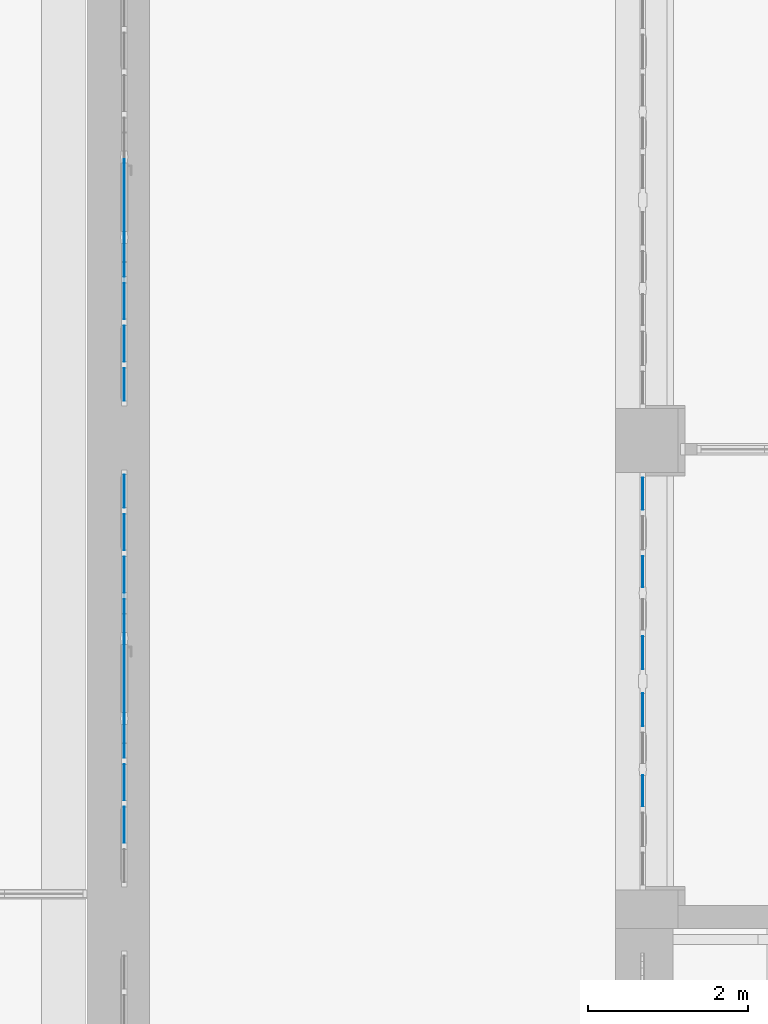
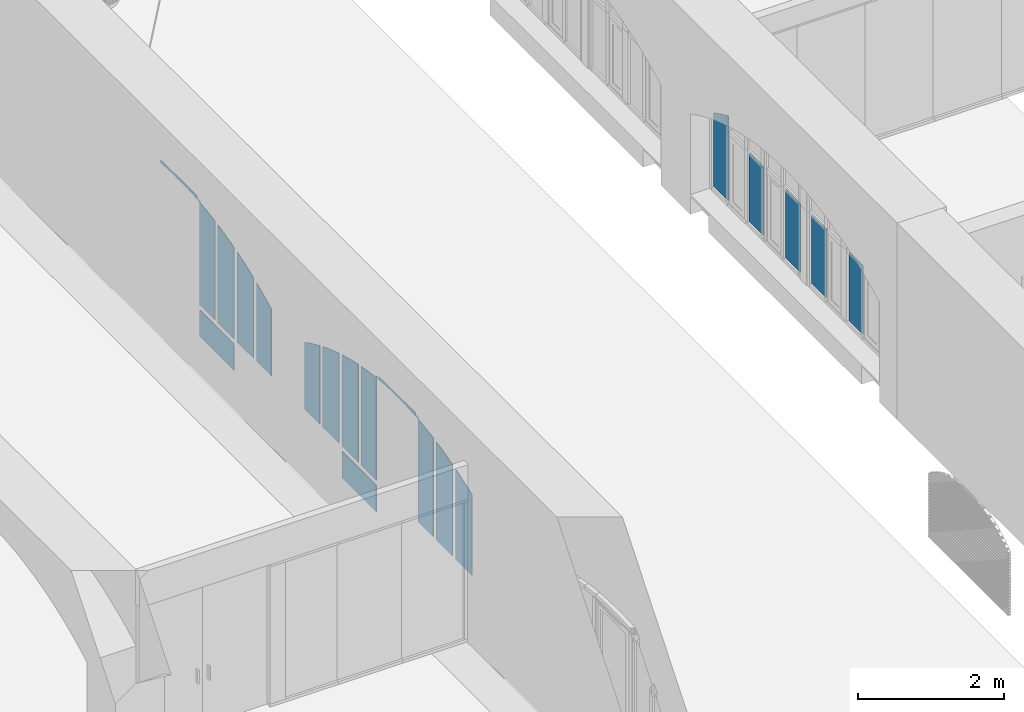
# One storey, part 63 of 88: 20 plates, 3 elements without a shape of their own.
"""IFC2X3 building model written with IfcOpenShell, lengths in millimetres."""

from ifc_helpers import new_model, entity, si_unit, converted_unit, derived_unit, direction, frame, frame_2d, origin, origin_2d_with_axis, place, context, subcontext, project, spatial, polyline, circle_curve, parameter, trimmed, segment, composite_curve, rectangle, outline, extrude, face_set, surface_model, source, transform, mapped, material, type_object, type_shapes, element, aggregate, save


model = new_model("IFC2X3")

# Units and contexts
model_context = context("Model", 3, precision=0.01, world=origin(), true_north=direction((6.123031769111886e-17, 1.0)))
body_context = subcontext(model_context, "Body", "Model", "MODEL_VIEW")
ifc_project = project(units=[si_unit("LENGTHUNIT", "METRE", prefix="MILLI"), si_unit("AREAUNIT", "SQUARE_METRE"), si_unit("VOLUMEUNIT", "CUBIC_METRE"), converted_unit("PLANEANGLEUNIT", "DEGREE", entity("IfcPlaneAngleMeasure", 0.017453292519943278), si_unit("PLANEANGLEUNIT", "RADIAN"), dimensions=[0, 0, 0, 0, 0, 0, 0]), si_unit("MASSUNIT", "GRAM", prefix="KILO"), derived_unit("MASSDENSITYUNIT", [(si_unit("MASSUNIT", "GRAM", prefix="KILO"), 1), (si_unit("LENGTHUNIT", "METRE"), -3)]), derived_unit("IONCONCENTRATIONUNIT", [(si_unit("MASSUNIT", "GRAM", prefix="KILO"), 1), (si_unit("LENGTHUNIT", "METRE"), -3)]), derived_unit("MOMENTOFINERTIAUNIT", [(si_unit("LENGTHUNIT", "METRE"), 4)]), si_unit("TIMEUNIT", "SECOND"), si_unit("FREQUENCYUNIT", "HERTZ"), si_unit("THERMODYNAMICTEMPERATUREUNIT", "DEGREE_CELSIUS"), derived_unit("THERMALTRANSMITTANCEUNIT", [(si_unit("MASSUNIT", "GRAM", prefix="KILO"), 1), (si_unit("THERMODYNAMICTEMPERATUREUNIT", "KELVIN"), -1), (si_unit("TIMEUNIT", "SECOND"), -3)]), derived_unit("THERMALCONDUCTANCEUNIT", [(si_unit("MASSUNIT", "GRAM", prefix="KILO"), 1), (si_unit("THERMODYNAMICTEMPERATUREUNIT", "KELVIN"), -1), (si_unit("TIMEUNIT", "SECOND"), -3), (si_unit("LENGTHUNIT", "METRE"), 1)]), derived_unit("VOLUMETRICFLOWRATEUNIT", [(si_unit("LENGTHUNIT", "METRE", prefix="DECI"), 3), (si_unit("TIMEUNIT", "SECOND"), -1)]), derived_unit("MASSFLOWRATEUNIT", [(si_unit("MASSUNIT", "GRAM", prefix="KILO"), 1), (si_unit("TIMEUNIT", "SECOND"), -1)]), derived_unit("ROTATIONALFREQUENCYUNIT", [(si_unit("TIMEUNIT", "SECOND"), -1)]), si_unit("ELECTRICCURRENTUNIT", "AMPERE"), si_unit("ELECTRICVOLTAGEUNIT", "VOLT"), si_unit("POWERUNIT", "WATT"), si_unit("FORCEUNIT", "NEWTON", prefix="KILO"), si_unit("ILLUMINANCEUNIT", "LUX"), si_unit("LUMINOUSFLUXUNIT", "LUMEN"), si_unit("LUMINOUSINTENSITYUNIT", "CANDELA"), si_unit("ENERGYUNIT", "JOULE"), derived_unit("USERDEFINED", [(si_unit("MASSUNIT", "GRAM", prefix="KILO"), -1), (si_unit("LENGTHUNIT", "METRE"), -2), (si_unit("TIMEUNIT", "SECOND"), 3), (si_unit("LUMINOUSFLUXUNIT", "LUMEN"), 1)]), derived_unit("USERDEFINED", [(si_unit("MASSUNIT", "GRAM", prefix="KILO"), 1), (si_unit("TIMEUNIT", "SECOND"), -3), (si_unit("LENGTHUNIT", "METRE"), 3), (si_unit("ELECTRICCURRENTUNIT", "AMPERE"), -2)]), derived_unit("SOUNDPOWERUNIT", [(si_unit("MASSUNIT", "GRAM", prefix="KILO"), 1), (si_unit("TIMEUNIT", "SECOND"), -3), (si_unit("LENGTHUNIT", "METRE"), 2)]), derived_unit("SOUNDPRESSUREUNIT", [(si_unit("MASSUNIT", "GRAM", prefix="KILO"), 1), (si_unit("LENGTHUNIT", "METRE"), -1), (si_unit("TIMEUNIT", "SECOND"), -2)]), derived_unit("LINEARVELOCITYUNIT", [(si_unit("LENGTHUNIT", "METRE"), 1), (si_unit("TIMEUNIT", "SECOND"), -1)]), si_unit("PRESSUREUNIT", "PASCAL"), derived_unit("USERDEFINED", [(si_unit("MASSUNIT", "GRAM", prefix="KILO"), 1), (si_unit("LENGTHUNIT", "METRE"), -2), (si_unit("TIMEUNIT", "SECOND"), -2)]), derived_unit("LINEARFORCEUNIT", [(si_unit("MASSUNIT", "GRAM", prefix="KILO"), 1), (si_unit("TIMEUNIT", "SECOND"), -2)]), derived_unit("PLANARFORCEUNIT", [(si_unit("MASSUNIT", "GRAM", prefix="KILO"), 1), (si_unit("LENGTHUNIT", "METRE"), -1), (si_unit("TIMEUNIT", "SECOND"), -2)]), derived_unit("SPECIFICHEATCAPACITYUNIT", [(si_unit("THERMODYNAMICTEMPERATUREUNIT", "KELVIN"), -1), (si_unit("LENGTHUNIT", "METRE"), 2), (si_unit("TIMEUNIT", "SECOND"), -2)]), derived_unit("HEATFLUXDENSITYUNIT", [(si_unit("MASSUNIT", "GRAM", prefix="KILO"), 1), (si_unit("TIMEUNIT", "SECOND"), -3)]), derived_unit("HEATINGVALUEUNIT", [(si_unit("LENGTHUNIT", "METRE"), 2), (si_unit("TIMEUNIT", "SECOND"), -2)]), derived_unit("VAPORPERMEABILITYUNIT", [(si_unit("LENGTHUNIT", "METRE"), -1), (si_unit("TIMEUNIT", "SECOND"), 1)]), derived_unit("DYNAMICVISCOSITYUNIT", [(si_unit("MASSUNIT", "GRAM", prefix="KILO"), 1), (si_unit("TIMEUNIT", "SECOND"), -1), (si_unit("LENGTHUNIT", "METRE"), -1)]), derived_unit("THERMALEXPANSIONCOEFFICIENTUNIT", [(si_unit("THERMODYNAMICTEMPERATUREUNIT", "KELVIN"), -1)]), derived_unit("MODULUSOFELASTICITYUNIT", [(si_unit("MASSUNIT", "GRAM", prefix="KILO"), 1), (si_unit("LENGTHUNIT", "METRE"), -1), (si_unit("TIMEUNIT", "SECOND"), -2)]), derived_unit("ISOTHERMALMOISTURECAPACITYUNIT", [(si_unit("MASSUNIT", "GRAM", prefix="KILO"), -1), (si_unit("LENGTHUNIT", "METRE"), 3)]), derived_unit("MOISTUREDIFFUSIVITYUNIT", [(si_unit("TIMEUNIT", "SECOND"), -1), (si_unit("LENGTHUNIT", "METRE"), 2)]), derived_unit("MASSPERLENGTHUNIT", [(si_unit("MASSUNIT", "GRAM", prefix="KILO"), 1), (si_unit("LENGTHUNIT", "METRE"), -1)]), derived_unit("THERMALRESISTANCEUNIT", [(si_unit("MASSUNIT", "GRAM", prefix="KILO"), -1), (si_unit("TIMEUNIT", "SECOND"), 3), (si_unit("THERMODYNAMICTEMPERATUREUNIT", "KELVIN"), 1)]), derived_unit("ACCELERATIONUNIT", [(si_unit("LENGTHUNIT", "METRE"), 1), (si_unit("TIMEUNIT", "SECOND"), -2)]), derived_unit("ANGULARVELOCITYUNIT", [(si_unit("TIMEUNIT", "SECOND"), -1), (si_unit("PLANEANGLEUNIT", "RADIAN"), 1)]), derived_unit("LINEARSTIFFNESSUNIT", [(si_unit("MASSUNIT", "GRAM", prefix="KILO"), 1), (si_unit("TIMEUNIT", "SECOND"), -2)]), derived_unit("WARPINGCONSTANTUNIT", [(si_unit("LENGTHUNIT", "METRE"), 6)]), derived_unit("LINEARMOMENTUNIT", [(si_unit("MASSUNIT", "GRAM", prefix="KILO"), 1), (si_unit("LENGTHUNIT", "METRE"), 1), (si_unit("TIMEUNIT", "SECOND"), -2)]), derived_unit("TORQUEUNIT", [(si_unit("MASSUNIT", "GRAM", prefix="KILO"), 1), (si_unit("LENGTHUNIT", "METRE"), 2), (si_unit("TIMEUNIT", "SECOND"), -2)])], contexts=[model_context])

# Site, building, storey
site_placement = place(None, origin())
site = spatial("IfcSite", under=ifc_project, at=site_placement, Name="Default", CompositionType="ELEMENT")
building_placement = place(site_placement, origin())
building = spatial("IfcBuilding", under=site, at=building_placement, Name="Eesti Rahvusraamatukogu hoone renoveerimise projekteerimistööd", CompositionType="ELEMENT")
storey_placement = place(building_placement, origin())
storey = spatial("IfcBuildingStorey", under=building, at=storey_placement, Name="1. korrus", CompositionType="ELEMENT", Elevation=0.0)

# Curtain wall, plates
curtain_wall_type_1 = type_object("IfcCurtainWallType", Name="Curtain Wall:Ak-02", PredefinedType="NOTDEFINED")
curtain_wall_1_placement = place(storey_placement, origin())
curtain_wall_1 = element("IfcCurtainWall", 1, at=curtain_wall_1_placement, inside=storey, type_object=curtain_wall_type_1, Name="Curtain Wall:Ak-02", ObjectType="Curtain Wall:Ak-02")
ifc_material_1 = material(Name="EST. Klaas. 3x. Default")
plate_type_1 = type_object("IfcPlateType", Name="System Panel:Peegelaknad 6-16-4-16-4, paneel", PredefinedType="CURTAIN_PANEL", material=ifc_material_1)
shared_shape_1 = source(origin(), body_context, "Body", "SweptSolid", [
    extrude(outline(composite_curve([segment(polyline([(-838.8855000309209, -200.0), (351.11449996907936, -200.0)]), True, "CONTINUOUS"), segment(polyline([(351.11449996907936, -200.0), (392.3931648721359, -200.0)]), True, "CONTINUOUS"), segment(trimmed(circle_curve(frame_2d((-4419.029401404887, 2340.0), x_axis=(0.9248280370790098, -0.38038546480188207)), 5440.715680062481), [parameter(354.5275221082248)], [parameter(359.19566238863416)], True, "PARAMETER"), True, "CONTINUOUS"), segment(polyline([(583.1488352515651, 200.0), (351.11449996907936, 200.0)]), True, "CONTINUOUS"), segment(polyline([(351.11449996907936, 200.0), (-838.8855000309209, 200.0)]), True, "CONTINUOUS"), segment(polyline([(-838.8855000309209, 200.0), (-838.8855000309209, -200.0)]), True, "CONTINUOUS")], self_intersect=False)), frame((0.0, -5.0, 838.8855000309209), z_axis=(0.0, 1.0, 0.0), x_axis=(0.0, 0.0, 1.0)), (0.0, 0.0, 1.0), 10.0),
])
type_shapes(plate_type_1, [shared_shape_1])
plate_1_placement = place(curtain_wall_1_placement, frame((-36440.0, 35730.0, 2040.0), z_axis=(0.0, 0.0, 1.0), x_axis=(0.0, -1.0, 0.0)))
plate_1 = element("IfcPlate", 2, at=plate_1_placement, type_object=plate_type_1, material=ifc_material_1, Name="System Panel:Peegelaknad 6-16-4-16-4, paneel", ObjectType="System Panel:Peegelaknad 6-16-4-16-4, paneel", context=body_context, shape_type="MappedRepresentation", body=[
    mapped(shared_shape_1, transform((0.0, 0.0, 0.0), scale=1.0)),
])
plate_type_2 = type_object("IfcPlateType", Name="System Panel:Peegelaknad 6-16-4-16-4, paneel", PredefinedType="CURTAIN_PANEL", material=ifc_material_1)
shared_shape_2 = source(origin(), body_context, "Body", "SweptSolid", [
    extrude(rectangle(XDim=10.0, YDim=384.9999999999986, at=origin_2d_with_axis()), frame((0.0, 0.0, 0.0), z_axis=(0.0, 0.0, 1.0), x_axis=(0.0, 1.0, 0.0)), (0.0, 0.0, 1.0), 1150.0000000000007),
])
type_shapes(plate_type_2, [shared_shape_2])
plate_2_placement = place(curtain_wall_1_placement, frame((-36440.0, 34757.49999999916, 2040.0), z_axis=(0.0, 0.0, 1.0), x_axis=(0.0, -1.0, 0.0)))
plate_2 = element("IfcPlate", 3, at=plate_2_placement, type_object=plate_type_2, material=ifc_material_1, Name="System Panel:Peegelaknad 6-16-4-16-4, paneel", ObjectType="System Panel:Peegelaknad 6-16-4-16-4, paneel", context=body_context, shape_type="MappedRepresentation", body=[
    mapped(shared_shape_2, transform((0.0, 0.0, 0.0), scale=1.0)),
])
plate_3_placement = place(curtain_wall_1_placement, frame((-36440.0, 32022.499999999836, 2040.0), z_axis=(0.0, 0.0, 1.0), x_axis=(0.0, -1.0, 0.0)))
plate_3 = element("IfcPlate", 4, at=plate_3_placement, type_object=plate_type_2, material=ifc_material_1, Name="System Panel:Peegelaknad 6-16-4-16-4, paneel", ObjectType="System Panel:Peegelaknad 6-16-4-16-4, paneel", context=body_context, shape_type="MappedRepresentation", body=[
    mapped(shared_shape_2, transform((0.0, 0.0, 0.0), scale=1.0)),
])
plate_type_3 = type_object("IfcPlateType", Name="System Panel:Peegelaknad 6-16-4-16-4, paneel", PredefinedType="CURTAIN_PANEL", material=ifc_material_1)
shared_shape_3 = source(origin(), body_context, "Body", "SweptSolid", [
    extrude(rectangle(XDim=10.0, YDim=409.9999999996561, at=origin_2d_with_axis()), frame((0.0, 0.0, 0.0), z_axis=(0.0, 0.0, 1.0), x_axis=(0.0, 1.0, 0.0)), (0.0, 0.0, 1.0), 1150.0000000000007),
])
type_shapes(plate_type_3, [shared_shape_3])
plate_4_placement = place(curtain_wall_1_placement, frame((-36440.0, 33745.0, 2040.0), z_axis=(0.0, 0.0, 1.0), x_axis=(0.0, -1.0, 0.0)))
plate_4 = element("IfcPlate", 5, at=plate_4_placement, type_object=plate_type_3, material=ifc_material_1, Name="System Panel:Peegelaknad 6-16-4-16-4, paneel", ObjectType="System Panel:Peegelaknad 6-16-4-16-4, paneel", context=body_context, shape_type="MappedRepresentation", body=[
    mapped(shared_shape_3, transform((0.0, 0.0, 0.0), scale=1.0)),
])
plate_5_placement = place(curtain_wall_1_placement, frame((-36440.0, 33035.0, 2040.0), z_axis=(0.0, 0.0, 1.0), x_axis=(0.0, -1.0, 0.0)))
plate_5 = element("IfcPlate", 6, at=plate_5_placement, type_object=plate_type_3, material=ifc_material_1, Name="System Panel:Peegelaknad 6-16-4-16-4, paneel", ObjectType="System Panel:Peegelaknad 6-16-4-16-4, paneel", context=body_context, shape_type="MappedRepresentation", body=[
    mapped(shared_shape_3, transform((0.0, 0.0, 0.0), scale=1.0)),
])
aggregate(curtain_wall_1, [plate_1, plate_2, plate_4, plate_5, plate_3])

# Curtain wall, plate
curtain_wall_type_2 = type_object("IfcCurtainWallType", Name="Curtain Wall:Ak-05", PredefinedType="NOTDEFINED")
curtain_wall_2_placement = place(storey_placement, origin())
curtain_wall_2 = element("IfcCurtainWall", 7, at=curtain_wall_2_placement, inside=storey, type_object=curtain_wall_type_2, Name="Curtain Wall:Ak-05", ObjectType="Curtain Wall:Ak-05")
plate_type_4 = type_object("IfcPlateType", Name="System Panel:Peegelaknad 6-16-4-16-4, paneel", PredefinedType="CURTAIN_PANEL", material=ifc_material_1)
shared_shape_4 = source(origin(), body_context, "Body", "SweptSolid", [
    extrude(rectangle(XDim=450.00000000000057, YDim=944.9999999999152, at=frame_2d((0.0, -5.833333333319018), x_axis=(1.0, 0.0))), frame((5.833333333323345, -5.0, 225.0), z_axis=(0.0, 1.0, 0.0), x_axis=(0.0, 0.0, 1.0)), (0.0, 0.0, 1.0), 10.0),
])
type_shapes(plate_type_4, [shared_shape_4])
plate_6_placement = place(curtain_wall_2_placement, frame((-42905.0, 34472.499999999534, 10.0), z_axis=(0.0, 0.0, 1.0), x_axis=(0.0, -1.0, 0.0)))
plate_6 = element("IfcPlate", 8, at=plate_6_placement, type_object=plate_type_4, material=ifc_material_1, Name="System Panel:Peegelaknad 6-16-4-16-4, paneel", ObjectType="System Panel:Peegelaknad 6-16-4-16-4, paneel", context=body_context, shape_type="MappedRepresentation", body=[
    mapped(shared_shape_4, transform((0.0, 0.0, 0.0), scale=1.0)),
])

curtain_wall_3_placement = place(storey_placement, origin())
curtain_wall_3 = element("IfcCurtainWall", 9, at=curtain_wall_3_placement, inside=storey, type_object=curtain_wall_type_2, Name="Curtain Wall:Ak-05", ObjectType="Curtain Wall:Ak-05")
plate_type_5 = type_object("IfcPlateType", Name="System Panel:Peegelaknad 6-16-4-16-4, paneel", PredefinedType="CURTAIN_PANEL", material=ifc_material_1)
shared_shape_5 = source(origin(), body_context, "Body", "SweptSolid", [
    extrude(rectangle(XDim=450.00000000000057, YDim=945.0000000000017, at=frame_2d((0.0, 5.833333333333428), x_axis=(1.0, 0.0))), frame((-5.8333333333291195, -5.0, 225.0), z_axis=(0.0, 1.0, 0.0), x_axis=(0.0, 0.0, 1.0)), (0.0, 0.0, 1.0), 10.0),
])
type_shapes(plate_type_5, [shared_shape_5])
plate_7_placement = place(curtain_wall_3_placement, frame((-42905.0, 38377.49999999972, 10.0), z_axis=(0.0, 0.0, 1.0), x_axis=(0.0, -1.0, 0.0)))
plate_7 = element("IfcPlate", 10, at=plate_7_placement, type_object=plate_type_5, material=ifc_material_1, Name="System Panel:Peegelaknad 6-16-4-16-4, paneel", ObjectType="System Panel:Peegelaknad 6-16-4-16-4, paneel", context=body_context, shape_type="MappedRepresentation", body=[
    mapped(shared_shape_5, transform((0.0, 0.0, 0.0), scale=1.0)),
])

# Plate
plate_type_6 = type_object("IfcPlateType", Name="System Panel:Peegelaknad 6-16-4-16-4, paneel", PredefinedType="CURTAIN_PANEL", material=ifc_material_1)
shared_shape_6 = source(origin(), body_context, "Body", "SweptSolid", [
    extrude(outline(composite_curve([segment(polyline([(-610.3301409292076, -205.0), (513.3133718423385, -205.0)]), True, "CONTINUOUS"), segment(trimmed(circle_curve(frame_2d((-4323.610707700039, 2335.0), x_axis=(0.9256428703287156, -0.37839830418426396)), 5463.280566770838), [parameter(354.5293230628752)], [parameter(359.2877436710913)], True, "PARAMETER"), True, "CONTINUOUS"), segment(polyline([(707.3469100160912, 205.0), (-610.3301409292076, 205.0)]), True, "CONTINUOUS"), segment(polyline([(-610.3301409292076, 205.0), (-610.3301409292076, -205.0)]), True, "CONTINUOUS")], self_intersect=False)), frame((0.0, -5.0, 610.3301409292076), z_axis=(0.0, 1.0, 0.0), x_axis=(0.0, 0.0, 1.0)), (0.0, 0.0, 1.0), 10.0),
])
type_shapes(plate_type_6, [shared_shape_6])
plate_8_placement = place(curtain_wall_2_placement, frame((-42905.0, 35760.0, 540.0), z_axis=(0.0, 0.0, 1.0), x_axis=(0.0, -1.0, 0.0)))
plate_8 = element("IfcPlate", 11, at=plate_8_placement, type_object=plate_type_6, material=ifc_material_1, Name="System Panel:Peegelaknad 6-16-4-16-4, paneel", ObjectType="System Panel:Peegelaknad 6-16-4-16-4, paneel", context=body_context, shape_type="MappedRepresentation", body=[
    mapped(shared_shape_6, transform((0.0, 0.0, 0.0), scale=1.0)),
])

plate_type_7 = type_object("IfcPlateType", Name="System Panel:Peegelaknad 6-16-4-16-4, paneel", PredefinedType="CURTAIN_PANEL", material=ifc_material_1)
shared_shape_7 = source(origin(), body_context, "Body", "SweptSolid", [
    extrude(outline(composite_curve([segment(polyline([(-715.3148161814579, -225.0), (635.487411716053, -225.0)]), True, "CONTINUOUS"), segment(trimmed(circle_curve(frame_2d((-4428.595382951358, 1825.0), x_axis=(0.9592847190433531, -0.2824408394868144)), 5463.280566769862), [parameter(354.3672571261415)], [parameter(359.3764184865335)], True, "PARAMETER"), True, "CONTINUOUS"), segment(polyline([(795.1422206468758, 225.0), (-715.3148161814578, 225.0)]), True, "CONTINUOUS"), segment(polyline([(-715.3148161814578, 225.0), (-715.3148161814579, -225.0)]), True, "CONTINUOUS")], self_intersect=False)), frame((0.0, -5.0, 715.3148161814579), z_axis=(0.0, 1.0, 0.0), x_axis=(0.0, 0.0, 1.0)), (0.0, 0.0, 1.0), 10.0),
])
type_shapes(plate_type_7, [shared_shape_7])
plate_9_placement = place(curtain_wall_2_placement, frame((-42905.0, 35250.0, 540.0), z_axis=(0.0, 0.0, 1.0), x_axis=(0.0, -1.0, 0.0)))
plate_9 = element("IfcPlate", 12, at=plate_9_placement, type_object=plate_type_7, material=ifc_material_1, Name="System Panel:Peegelaknad 6-16-4-16-4, paneel", ObjectType="System Panel:Peegelaknad 6-16-4-16-4, paneel", context=body_context, shape_type="MappedRepresentation", body=[
    mapped(shared_shape_7, transform((0.0, 0.0, 0.0), scale=1.0)),
])

plate_type_8 = type_object("IfcPlateType", Name="System Panel:Peegelaknad 6-16-4-16-4, paneel", PredefinedType="CURTAIN_PANEL", material=ifc_material_1)
shared_shape_8 = source(origin(), body_context, "Body", "SweptSolid", [
    extrude(outline(composite_curve([segment(polyline([(-794.6219170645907, -225.0), (739.6716748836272, -225.0)]), True, "CONTINUOUS"), segment(trimmed(circle_curve(frame_2d((-4507.902483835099, 1295.0), x_axis=(0.9824581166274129, -0.18648337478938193)), 5463.2805667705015), [parameter(354.5935648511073)], [parameter(359.45306970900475)], True, "PARAMETER"), True, "CONTINUOUS"), segment(polyline([(849.5721592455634, 225.0), (-794.6219170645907, 225.0)]), True, "CONTINUOUS"), segment(polyline([(-794.6219170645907, 225.0), (-794.6219170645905, -225.0)]), True, "CONTINUOUS")], self_intersect=False)), frame((0.0, -5.0, 794.6219170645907), z_axis=(0.0, 1.0, 0.0), x_axis=(0.0, 0.0, 1.0)), (0.0, 0.0, 1.0), 10.0),
])
type_shapes(plate_type_8, [shared_shape_8])
plate_10_placement = place(curtain_wall_2_placement, frame((-42905.0, 34720.0, 540.0), z_axis=(0.0, 0.0, 1.0), x_axis=(0.0, -1.0, 0.0)))
plate_10 = element("IfcPlate", 13, at=plate_10_placement, type_object=plate_type_8, material=ifc_material_1, Name="System Panel:Peegelaknad 6-16-4-16-4, paneel", ObjectType="System Panel:Peegelaknad 6-16-4-16-4, paneel", context=body_context, shape_type="MappedRepresentation", body=[
    mapped(shared_shape_8, transform((0.0, 0.0, 0.0), scale=1.0)),
])

plate_type_9 = type_object("IfcPlateType", Name="System Panel:Peegelaknad 6-16-4-16-4, paneel", PredefinedType="CURTAIN_PANEL", material=ifc_material_1)
shared_shape_9 = source(origin(), body_context, "Body", "SurfaceModel", [
    surface_model("IfcFaceBasedSurfaceModel", [(-245.0, -5.0, 0.0), (170.0, -5.0, 0.0), (170.0, -5.0, 1750.0), (245.0, -5.0, 1750.0), (245.0, -5.0, 1727.0718621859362), (93.20177957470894, -5.0, 1710.979164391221), (-58.08758672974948, -5.0, 1690.6517865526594), (-151.67863011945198, -5.0, 1675.9125069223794), (-245.0, -5.0, 1659.5524430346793), (-245.0, 5.0, 0.0), (-245.0, 5.0, 1659.5524430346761), (-151.67863011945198, 5.0, 1675.9125069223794), (-58.08758672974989, 5.0, 1690.6517865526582), (93.20177957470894, 5.0, 1710.979164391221), (245.0, 5.0, 1727.071862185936), (245.0, 5.0, 1750.0), (170.0, 5.0, 1750.0), (170.0, 5.0, 0.0)], [face_set([[[0, 1, 2, 3, 4, 5, 6, 7, 8]], [[9, 10, 11, 12, 13, 14, 15, 16, 17]], [[1, 0, 9, 17]], [[2, 1, 17, 16]], [[3, 15, 16, 2]], [[4, 14, 15, 3]], [[5, 4, 14, 13]], [[12, 6, 5, 13]], [[7, 6, 12, 11]], [[10, 8, 7, 11]], [[0, 8, 10, 9]]])]),
])
type_shapes(plate_type_9, [shared_shape_9])
plate_11_placement = place(curtain_wall_2_placement, frame((-42905.0, 34170.0, 540.0), z_axis=(0.0, 0.0, 1.0), x_axis=(0.0, -1.0, 0.0)))
plate_11 = element("IfcPlate", 14, at=plate_11_placement, type_object=plate_type_9, material=ifc_material_1, Name="System Panel:Peegelaknad 6-16-4-16-4, paneel", ObjectType="System Panel:Peegelaknad 6-16-4-16-4, paneel", context=body_context, shape_type="MappedRepresentation", body=[
    mapped(shared_shape_9, transform((0.0, 0.0, 0.0), scale=1.0)),
])

plate_type_10 = type_object("IfcPlateType", Name="System Panel:Peegelaknad 6-16-4-16-4, paneel", PredefinedType="CURTAIN_PANEL", material=ifc_material_1)
shared_shape_10 = source(origin(), body_context, "Body", "SurfaceModel", [
    surface_model("IfcFaceBasedSurfaceModel", [(-170.0, -5.0, 0.0), (245.0, -5.0, 0.0), (245.0, -5.0, 1659.5524430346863), (151.67863011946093, -5.0, 1675.9125069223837), (58.08758672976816, -5.0, 1690.6517865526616), (-93.2017795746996, -5.0, 1710.979164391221), (-245.0, -5.0, 1727.071862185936), (-245.0, -5.0, 1750.0), (-170.0, -5.0, 1750.0), (-170.0, 5.0, 0.0), (245.0, 5.0, 0.0), (245.0, 5.0, 1659.552443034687), (151.67863011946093, 5.0, 1675.9125069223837), (58.08758672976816, 5.0, 1690.6517865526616), (-93.2017795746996, 5.0, 1710.979164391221), (-245.0, 5.0, 1727.071862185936), (-245.0, 5.0, 1750.0), (-170.0, 5.0, 1750.0)], [face_set([[[0, 1, 2, 3, 4, 5, 6, 7, 8]], [[9, 10, 11, 12, 13, 14, 15, 16, 17]], [[1, 0, 9, 10]], [[2, 1, 10, 11]], [[3, 2, 11, 12]], [[13, 4, 3, 12]], [[4, 13, 14, 5]], [[15, 6, 5, 14]], [[7, 16, 15, 6]], [[8, 17, 16, 7]], [[0, 8, 17, 9]]])]),
])
type_shapes(plate_type_10, [shared_shape_10])
plate_12_placement = place(curtain_wall_3_placement, frame((-42905.0, 38680.0, 540.0), z_axis=(0.0, 0.0, 1.0), x_axis=(0.0, -1.0, 0.0)))
plate_12 = element("IfcPlate", 15, at=plate_12_placement, type_object=plate_type_10, material=ifc_material_1, Name="System Panel:Peegelaknad 6-16-4-16-4, paneel", ObjectType="System Panel:Peegelaknad 6-16-4-16-4, paneel", context=body_context, shape_type="MappedRepresentation", body=[
    mapped(shared_shape_10, transform((0.0, 0.0, 0.0), scale=1.0)),
])

plate_13_placement = place(curtain_wall_2_placement, frame((-42905.0, 32680.0, 540.0), z_axis=(0.0, 0.0, 1.0), x_axis=(0.0, -1.0, 0.0)))
plate_13 = element("IfcPlate", 16, at=plate_13_placement, type_object=plate_type_10, material=ifc_material_1, Name="System Panel:Peegelaknad 6-16-4-16-4, paneel", ObjectType="System Panel:Peegelaknad 6-16-4-16-4, paneel", context=body_context, shape_type="MappedRepresentation", body=[
    mapped(shared_shape_10, transform((0.0, 0.0, 0.0), scale=1.0)),
])

plate_type_11 = type_object("IfcPlateType", Name="System Panel:Peegelaknad 6-16-4-16-4, paneel", PredefinedType="CURTAIN_PANEL", material=ifc_material_1)
shared_shape_11 = source(origin(), body_context, "Body", "SweptSolid", [
    extrude(outline(composite_curve([segment(polyline([(-794.621917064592, 225.0), (-794.621917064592, -225.0)]), True, "CONTINUOUS"), segment(polyline([(-794.621917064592, -225.0), (739.6716748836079, -225.0)]), True, "CONTINUOUS"), segment(trimmed(circle_curve(frame_2d((-4507.902483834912, 1295.0), x_axis=(0.9592847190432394, -0.2824408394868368)), 5463.280566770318), [parameter(0.25187197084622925)], [parameter(5.111376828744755)], True, "PARAMETER"), True, "CONTINUOUS"), segment(polyline([(849.5721592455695, 225.0), (-794.621917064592, 225.0)]), True, "CONTINUOUS")], self_intersect=False)), frame((0.0, -5.0, 794.621917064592), z_axis=(0.0, -1.0, 0.0), x_axis=(0.0, 0.0, 1.0)), (0.0, 0.0, -1.0), 10.0),
])
type_shapes(plate_type_11, [shared_shape_11])
plate_14_placement = place(curtain_wall_3_placement, frame((-42905.0, 38130.0, 540.0), z_axis=(0.0, 0.0, 1.0), x_axis=(0.0, -1.0, 0.0)))
plate_14 = element("IfcPlate", 17, at=plate_14_placement, type_object=plate_type_11, material=ifc_material_1, Name="System Panel:Peegelaknad 6-16-4-16-4, paneel", ObjectType="System Panel:Peegelaknad 6-16-4-16-4, paneel", context=body_context, shape_type="MappedRepresentation", body=[
    mapped(shared_shape_11, transform((0.0, 0.0, 0.0), scale=1.0)),
])

plate_15_placement = place(curtain_wall_2_placement, frame((-42905.0, 32130.0, 540.0), z_axis=(0.0, 0.0, 1.0), x_axis=(0.0, -1.0, 0.0)))
plate_15 = element("IfcPlate", 18, at=plate_15_placement, type_object=plate_type_11, material=ifc_material_1, Name="System Panel:Peegelaknad 6-16-4-16-4, paneel", ObjectType="System Panel:Peegelaknad 6-16-4-16-4, paneel", context=body_context, shape_type="MappedRepresentation", body=[
    mapped(shared_shape_11, transform((0.0, 0.0, 0.0), scale=1.0)),
])

plate_type_12 = type_object("IfcPlateType", Name="System Panel:Peegelaknad 6-16-4-16-4, paneel", PredefinedType="CURTAIN_PANEL", material=ifc_material_1)
shared_shape_12 = source(origin(), body_context, "Body", "SweptSolid", [
    extrude(outline(composite_curve([segment(polyline([(-715.3148161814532, 225.0), (-715.3148161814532, -225.0)]), True, "CONTINUOUS"), segment(polyline([(-715.3148161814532, -225.0), (635.4874117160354, -225.0)]), True, "CONTINUOUS"), segment(trimmed(circle_curve(frame_2d((-4428.59538295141, 1825.0), x_axis=(0.9256428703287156, -0.3783983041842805)), 5463.280566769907), [parameter(0.19582649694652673)], [parameter(5.204987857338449)], True, "PARAMETER"), True, "CONTINUOUS"), segment(polyline([(795.1422206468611, 225.0), (-715.3148161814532, 225.0)]), True, "CONTINUOUS")], self_intersect=False)), frame((0.0, -5.0, 715.3148161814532), z_axis=(0.0, -1.0, 0.0), x_axis=(0.0, 0.0, 1.0)), (0.0, 0.0, -1.0), 10.0),
])
type_shapes(plate_type_12, [shared_shape_12])
plate_16_placement = place(curtain_wall_3_placement, frame((-42905.0, 37600.0, 540.0), z_axis=(0.0, 0.0, 1.0), x_axis=(0.0, -1.0, 0.0)))
plate_16 = element("IfcPlate", 19, at=plate_16_placement, type_object=plate_type_12, material=ifc_material_1, Name="System Panel:Peegelaknad 6-16-4-16-4, paneel", ObjectType="System Panel:Peegelaknad 6-16-4-16-4, paneel", context=body_context, shape_type="MappedRepresentation", body=[
    mapped(shared_shape_12, transform((0.0, 0.0, 0.0), scale=1.0)),
])

plate_17_placement = place(curtain_wall_2_placement, frame((-42905.0, 31600.0, 540.0), z_axis=(0.0, 0.0, 1.0), x_axis=(0.0, -1.0, 0.0)))
plate_17 = element("IfcPlate", 20, at=plate_17_placement, type_object=plate_type_12, material=ifc_material_1, Name="System Panel:Peegelaknad 6-16-4-16-4, paneel", ObjectType="System Panel:Peegelaknad 6-16-4-16-4, paneel", context=body_context, shape_type="MappedRepresentation", body=[
    mapped(shared_shape_12, transform((0.0, 0.0, 0.0), scale=1.0)),
])

plate_type_13 = type_object("IfcPlateType", Name="System Panel:Peegelaknad 6-16-4-16-4, paneel", PredefinedType="CURTAIN_PANEL", material=ifc_material_1)
shared_shape_13 = source(origin(), body_context, "Body", "SweptSolid", [
    extrude(outline(composite_curve([segment(polyline([(-610.3301409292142, 205.0), (-610.3301409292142, -205.0)]), True, "CONTINUOUS"), segment(polyline([(-610.3301409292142, -205.0), (513.3133718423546, -205.0)]), True, "CONTINUOUS"), segment(trimmed(circle_curve(frame_2d((-4323.610707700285, 2335.0), x_axis=(0.8822747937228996, -0.4707347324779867)), 5463.280566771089), [parameter(0.37681807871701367)], [parameter(5.135238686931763)], True, "PARAMETER"), True, "CONTINUOUS"), segment(polyline([(707.3469100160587, 205.0), (-610.3301409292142, 205.0)]), True, "CONTINUOUS")], self_intersect=False)), frame((0.0, -5.0, 610.3301409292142), z_axis=(0.0, -1.0, 0.0), x_axis=(0.0, 0.0, 1.0)), (0.0, 0.0, -1.0), 10.0),
])
type_shapes(plate_type_13, [shared_shape_13])
plate_18_placement = place(curtain_wall_3_placement, frame((-42905.0, 37090.0, 540.0), z_axis=(0.0, 0.0, 1.0), x_axis=(0.0, -1.0, 0.0)))
plate_18 = element("IfcPlate", 21, at=plate_18_placement, type_object=plate_type_13, material=ifc_material_1, Name="System Panel:Peegelaknad 6-16-4-16-4, paneel", ObjectType="System Panel:Peegelaknad 6-16-4-16-4, paneel", context=body_context, shape_type="MappedRepresentation", body=[
    mapped(shared_shape_13, transform((0.0, 0.0, 0.0), scale=1.0)),
])

ifc_material_2 = material(Name="<Unnamed>")
plate_type_14 = type_object("IfcPlateType", Name="System Panel:Peegelaknad 6-16-4-16-4, paneel", PredefinedType="CURTAIN_PANEL", material=ifc_material_2)
shared_shape_14 = source(origin(), body_context, "Body", "SweptSolid", [
    extrude(outline(composite_curve([segment(polyline([(18.907544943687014, -500.34273422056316), (71.61836514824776, -495.5513663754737)]), True, "CONTINUOUS"), segment(polyline([(71.61836514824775, -495.5513663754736), (-18.907544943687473, 500.3427342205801)]), True, "CONTINUOUS"), segment(polyline([(-18.907544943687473, 500.3427342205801), (-71.61836514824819, 495.5513663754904)]), True, "CONTINUOUS"), segment(trimmed(circle_curve(frame_2d((-5444.3702992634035, -494.8885387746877), x_axis=(1.0, 0.0)), 5463.280566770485), [parameter(359.94279949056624)], [parameter(10.444926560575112)], True, "PARAMETER"), False, "CONTINUOUS")], self_intersect=False)), frame((0.0, -5.0, 26.46406890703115), z_axis=(0.0, -1.0, 0.0), x_axis=(0.0905259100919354, 0.0, 0.9958941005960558)), (0.0, 0.0, -1.0), 10.0),
])
type_shapes(plate_type_14, [shared_shape_14])
plate_19_placement = place(curtain_wall_3_placement, frame((-42905.0, 39425.0, 2267.0718621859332), z_axis=(0.0, 0.0, 1.0), x_axis=(0.0, -1.0, 0.0)))
plate_19 = element("IfcPlate", 22, at=plate_19_placement, type_object=plate_type_14, material=ifc_material_2, Name="System Panel:Peegelaknad 6-16-4-16-4, paneel", ObjectType="System Panel:Peegelaknad 6-16-4-16-4, paneel", context=body_context, shape_type="MappedRepresentation", body=[
    mapped(shared_shape_14, transform((0.0, 0.0, 0.0), scale=1.0)),
])

aggregate(curtain_wall_3, [plate_7, plate_12, plate_14, plate_16, plate_18, plate_19])

plate_20_placement = place(curtain_wall_2_placement, frame((-42905.0, 33425.0, 2267.071862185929), z_axis=(0.0, 0.0, 1.0), x_axis=(0.0, -1.0, 0.0)))
plate_20 = element("IfcPlate", 23, at=plate_20_placement, type_object=plate_type_14, material=ifc_material_2, Name="System Panel:Peegelaknad 6-16-4-16-4, paneel", ObjectType="System Panel:Peegelaknad 6-16-4-16-4, paneel", context=body_context, shape_type="MappedRepresentation", body=[
    mapped(shared_shape_14, transform((0.0, 0.0, 0.0), scale=1.0)),
])

aggregate(curtain_wall_2, [plate_6, plate_8, plate_9, plate_10, plate_11, plate_13, plate_15, plate_17, plate_20])

save(model, "model.ifc")
